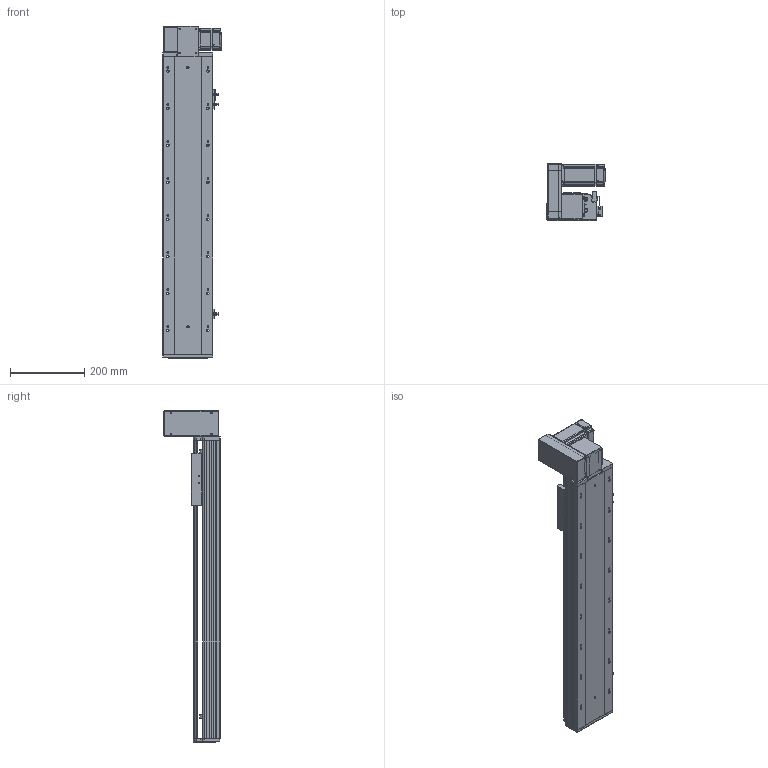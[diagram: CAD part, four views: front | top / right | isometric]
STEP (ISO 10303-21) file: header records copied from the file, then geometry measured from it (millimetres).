
FILE_DESCRIPTION (( 'STEP AP203' ), '1' );
FILE_NAME ('RY140-T-300-UL.SLDASM_550.step', '2021-03-01T07:43:11', ( '盈信电脑' ), ( '东莞市道滘镇水果街19号' ), 'SwSTEP 2.0', 'SolidWorks 2012', '' );
FILE_SCHEMA (( 'CONFIG_CONTROL_DESIGN' ));
Length unit declared in the file: millimetre
Products named in the file (18): RY140肮祭謫臏賑輸; RY140-T-300-DL倰第菁釱_550; RY140-T-300-UL.SLDASM_550; RY140-T翋肮謫裔啣; RY120-T蹟翐M4; RY140-T萇儂欶; 滅袉蝶18-10; 15; RY120-T主同步轮轴承压盖; 侂狟400W侜督萇儂; RY120-T肮祭湍揤踡輸2; RY140-T翋肮祭謫盓傅釱; RY120-T肮祭湍揤踡輸1; RY140-T萇儂假蚾啣; RY140綴裔啣; RY140-T-300-DL倰第奻裔啣_550; RY120外置感应片(140共用）; 覜茼ん672
Assembly tree (23 placements, depth 3):
  RY140-T-300-UL.SLDASM_550
    RY140-T-300-DL倰第菁釱_550
    RY140肮祭謫臏賑輸
    RY140-T-300-DL倰第奻裔啣_550
    RY140綴裔啣
    覜茼ん672  x3
    RY120外置感应片(140共用）
    RY120-T肮祭湍揤踡輸2
    RY120-T肮祭湍揤踡輸1
    RY140-T翋肮祭謫盓傅釱
    RY140-T萇儂假蚾啣
    侂狟400W侜督萇儂
      15
    RY120-T主同步轮轴承压盖
    RY120-T蹟翐M4  x4
    RY140-T萇儂欶
    滅袉蝶18-10  x2
    RY140-T翋肮謫裔啣
Bounding box: 157 x 152.5 x 896 mm (x, y, z)
Volume: 2916669.5 mm3; surface area: 1085529.7 mm2
Topology: 22 solids, 22 shells, 2623 faces, 7197 edges, 4638 vertices
Faces by surface type: plane 1381, cylinder 952, cone 190, bspline 100
Entity records: 83323 total; most frequent: CARTESIAN_POINT 20459, ORIENTED_EDGE 12938, DIRECTION 12229, EDGE_CURVE 6469, VERTEX_POINT 4237, VECTOR 4157, LINE 4157, AXIS2_PLACEMENT_3D 4036
